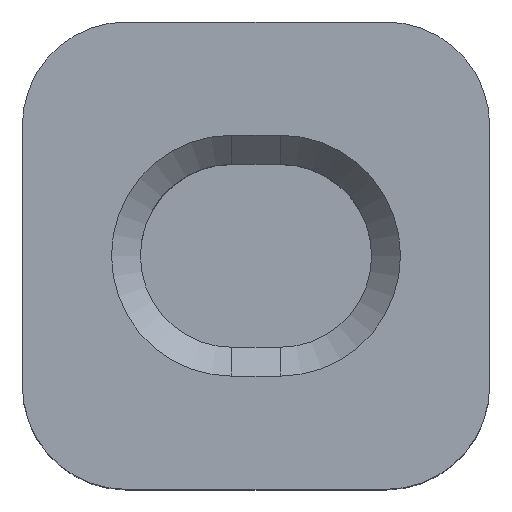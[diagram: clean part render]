
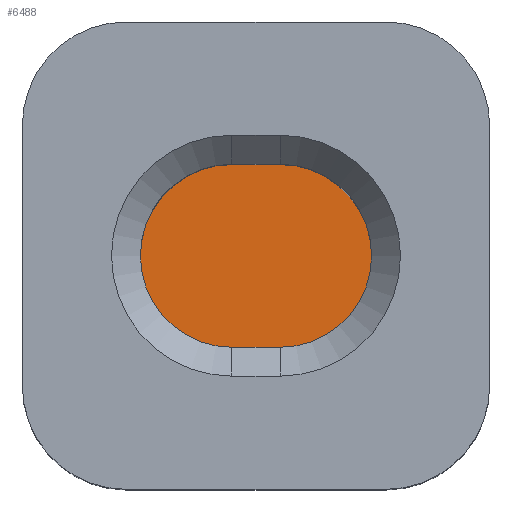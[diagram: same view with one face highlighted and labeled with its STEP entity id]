
A CAD part, top view. The second image highlights one B-rep face of the part: STEP entity #6488.
In plain terms, the highlighted planar face has unit normal (0, 0, 1).
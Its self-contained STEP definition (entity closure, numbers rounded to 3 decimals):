
#2911 = CYLINDRICAL_SURFACE('',#2912,1.9);
#2912 = AXIS2_PLACEMENT_3D('',#2913,#2914,#2915);
#2913 = CARTESIAN_POINT('',(-17.,-10.2,283.693));
#2914 = DIRECTION('',(0.,0.,-1.));
#2915 = DIRECTION('',(-1.,0.,0.));
#2984 = PLANE('',#2985);
#2985 = AXIS2_PLACEMENT_3D('',#2986,#2987,#2988);
#2986 = CARTESIAN_POINT('',(-16.5,-12.1,283.693));
#2987 = DIRECTION('',(0.,1.,0.));
#2988 = DIRECTION('',(0.,-0.,1.));
#3018 = CYLINDRICAL_SURFACE('',#3019,1.9);
#3019 = AXIS2_PLACEMENT_3D('',#3020,#3021,#3022);
#3020 = CARTESIAN_POINT('',(-16.,-10.2,283.693));
#3021 = DIRECTION('',(0.,0.,-1.));
#3022 = DIRECTION('',(-1.,0.,0.));
#3071 = PLANE('',#3072);
#3072 = AXIS2_PLACEMENT_3D('',#3073,#3074,#3075);
#3073 = CARTESIAN_POINT('',(-16.5,-8.3,283.693));
#3074 = DIRECTION('',(0.,1.,0.));
#3075 = DIRECTION('',(0.,-0.,1.));
#5312 = EDGE_CURVE('',#5313,#5315,#5317,.T.);
#5313 = VERTEX_POINT('',#5314);
#5314 = CARTESIAN_POINT('',(-17.,-12.1,14.3));
#5315 = VERTEX_POINT('',#5316);
#5316 = CARTESIAN_POINT('',(-17.,-8.3,14.3));
#5317 = SURFACE_CURVE('',#5318,(#5323,#5330),.PCURVE_S1.);
#5318 = CIRCLE('',#5319,1.9);
#5319 = AXIS2_PLACEMENT_3D('',#5320,#5321,#5322);
#5320 = CARTESIAN_POINT('',(-17.,-10.2,14.3));
#5321 = DIRECTION('',(0.,0.,-1.));
#5322 = DIRECTION('',(-1.,0.,0.));
#5323 = PCURVE('',#2911,#5324);
#5324 = DEFINITIONAL_REPRESENTATION('',(#5325),#5329);
#5325 = LINE('',#5326,#5327);
#5326 = CARTESIAN_POINT('',(0.,269.393));
#5327 = VECTOR('',#5328,1.);
#5328 = DIRECTION('',(1.,0.));
#5329 = ( GEOMETRIC_REPRESENTATION_CONTEXT(2) 
PARAMETRIC_REPRESENTATION_CONTEXT() REPRESENTATION_CONTEXT('2D SPACE',''
  ) );
#5330 = PCURVE('',#5331,#5336);
#5331 = PLANE('',#5332);
#5332 = AXIS2_PLACEMENT_3D('',#5333,#5334,#5335);
#5333 = CARTESIAN_POINT('',(1.25,-10.,14.3));
#5334 = DIRECTION('',(0.,0.,-1.));
#5335 = DIRECTION('',(1.,0.,0.));
#5336 = DEFINITIONAL_REPRESENTATION('',(#5337),#5341);
#5337 = CIRCLE('',#5338,1.9);
#5338 = AXIS2_PLACEMENT_2D('',#5339,#5340);
#5339 = CARTESIAN_POINT('',(-18.25,0.2));
#5340 = DIRECTION('',(-1.,0.));
#5341 = ( GEOMETRIC_REPRESENTATION_CONTEXT(2) 
PARAMETRIC_REPRESENTATION_CONTEXT() REPRESENTATION_CONTEXT('2D SPACE',''
  ) );
#5392 = VERTEX_POINT('',#5393);
#5393 = CARTESIAN_POINT('',(-16.,-12.1,14.3));
#5414 = EDGE_CURVE('',#5392,#5313,#5415,.T.);
#5415 = SURFACE_CURVE('',#5416,(#5420,#5427),.PCURVE_S1.);
#5416 = LINE('',#5417,#5418);
#5417 = CARTESIAN_POINT('',(-16.5,-12.1,14.3));
#5418 = VECTOR('',#5419,1.);
#5419 = DIRECTION('',(-1.,0.,0.));
#5420 = PCURVE('',#2984,#5421);
#5421 = DEFINITIONAL_REPRESENTATION('',(#5422),#5426);
#5422 = LINE('',#5423,#5424);
#5423 = CARTESIAN_POINT('',(-269.393,0.));
#5424 = VECTOR('',#5425,1.);
#5425 = DIRECTION('',(0.,-1.));
#5426 = ( GEOMETRIC_REPRESENTATION_CONTEXT(2) 
PARAMETRIC_REPRESENTATION_CONTEXT() REPRESENTATION_CONTEXT('2D SPACE',''
  ) );
#5427 = PCURVE('',#5331,#5428);
#5428 = DEFINITIONAL_REPRESENTATION('',(#5429),#5433);
#5429 = LINE('',#5430,#5431);
#5430 = CARTESIAN_POINT('',(-17.75,2.1));
#5431 = VECTOR('',#5432,1.);
#5432 = DIRECTION('',(-1.,0.));
#5433 = ( GEOMETRIC_REPRESENTATION_CONTEXT(2) 
PARAMETRIC_REPRESENTATION_CONTEXT() REPRESENTATION_CONTEXT('2D SPACE',''
  ) );
#5438 = EDGE_CURVE('',#5439,#5392,#5441,.T.);
#5439 = VERTEX_POINT('',#5440);
#5440 = CARTESIAN_POINT('',(-16.,-8.3,14.3));
#5441 = SURFACE_CURVE('',#5442,(#5447,#5454),.PCURVE_S1.);
#5442 = CIRCLE('',#5443,1.9);
#5443 = AXIS2_PLACEMENT_3D('',#5444,#5445,#5446);
#5444 = CARTESIAN_POINT('',(-16.,-10.2,14.3));
#5445 = DIRECTION('',(0.,0.,-1.));
#5446 = DIRECTION('',(-1.,0.,0.));
#5447 = PCURVE('',#3018,#5448);
#5448 = DEFINITIONAL_REPRESENTATION('',(#5449),#5453);
#5449 = LINE('',#5450,#5451);
#5450 = CARTESIAN_POINT('',(0.,269.393));
#5451 = VECTOR('',#5452,1.);
#5452 = DIRECTION('',(1.,0.));
#5453 = ( GEOMETRIC_REPRESENTATION_CONTEXT(2) 
PARAMETRIC_REPRESENTATION_CONTEXT() REPRESENTATION_CONTEXT('2D SPACE',''
  ) );
#5454 = PCURVE('',#5331,#5455);
#5455 = DEFINITIONAL_REPRESENTATION('',(#5456),#5460);
#5456 = CIRCLE('',#5457,1.9);
#5457 = AXIS2_PLACEMENT_2D('',#5458,#5459);
#5458 = CARTESIAN_POINT('',(-17.25,0.2));
#5459 = DIRECTION('',(-1.,0.));
#5460 = ( GEOMETRIC_REPRESENTATION_CONTEXT(2) 
PARAMETRIC_REPRESENTATION_CONTEXT() REPRESENTATION_CONTEXT('2D SPACE',''
  ) );
#5491 = EDGE_CURVE('',#5439,#5315,#5492,.T.);
#5492 = SURFACE_CURVE('',#5493,(#5497,#5504),.PCURVE_S1.);
#5493 = LINE('',#5494,#5495);
#5494 = CARTESIAN_POINT('',(-16.5,-8.3,14.3));
#5495 = VECTOR('',#5496,1.);
#5496 = DIRECTION('',(-1.,0.,0.));
#5497 = PCURVE('',#3071,#5498);
#5498 = DEFINITIONAL_REPRESENTATION('',(#5499),#5503);
#5499 = LINE('',#5500,#5501);
#5500 = CARTESIAN_POINT('',(-269.393,0.));
#5501 = VECTOR('',#5502,1.);
#5502 = DIRECTION('',(0.,-1.));
#5503 = ( GEOMETRIC_REPRESENTATION_CONTEXT(2) 
PARAMETRIC_REPRESENTATION_CONTEXT() REPRESENTATION_CONTEXT('2D SPACE',''
  ) );
#5504 = PCURVE('',#5331,#5505);
#5505 = DEFINITIONAL_REPRESENTATION('',(#5506),#5510);
#5506 = LINE('',#5507,#5508);
#5507 = CARTESIAN_POINT('',(-17.75,-1.7));
#5508 = VECTOR('',#5509,1.);
#5509 = DIRECTION('',(-1.,0.));
#5510 = ( GEOMETRIC_REPRESENTATION_CONTEXT(2) 
PARAMETRIC_REPRESENTATION_CONTEXT() REPRESENTATION_CONTEXT('2D SPACE',''
  ) );
#6488 = ADVANCED_FACE('',(#6489),#5331,.F.);
#6489 = FACE_BOUND('',#6490,.T.);
#6490 = EDGE_LOOP('',(#6491,#6492,#6493,#6494));
#6491 = ORIENTED_EDGE('',*,*,#5438,.F.);
#6492 = ORIENTED_EDGE('',*,*,#5491,.T.);
#6493 = ORIENTED_EDGE('',*,*,#5312,.F.);
#6494 = ORIENTED_EDGE('',*,*,#5414,.F.);
